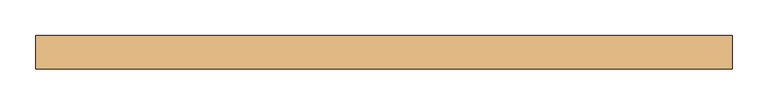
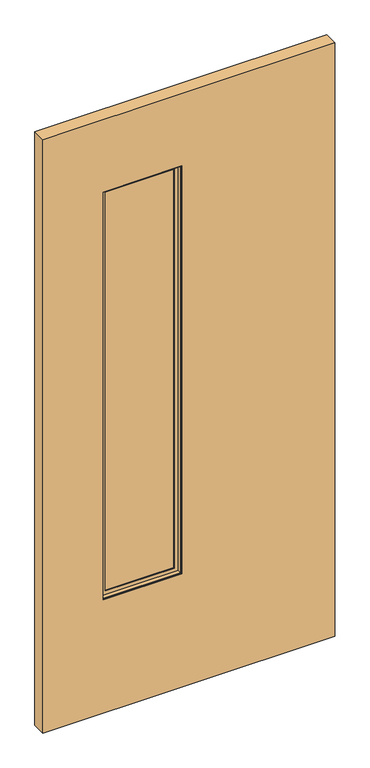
"""IFC4 building model written with IfcOpenShell, lengths in millimetres: door geometry, Solid_Hinged_Door_Glass_insert-AIH-Teknion-FHDB-Leaf_Single-R2022 : (A) Justified Half Glass insert."""

from ifc_helpers import new_model, si_unit, frame, origin, place, context, project, spatial, polyline, outline, extrude, faceted_brep, source, transform, mapped, element, save


def door_0cc8a4fb(model_context):
    return source(origin(), model_context, "Body", "SolidModel", [
        extrude(outline(polyline([(-23.0964326, -3.175), (-284.7164326, -3.175), (-284.7164326, 3.175), (-23.0964326, 3.175), (-23.0964326, -3.175)])), frame((0.0, 0.0, 409.9435027), z_axis=(0.0, 0.0, 1.0), x_axis=(1.0, 0.0, 0.0)), (0.0, 0.0, 1.0), 1430.02),
        faceted_brep([(-268.8258536, 3.797467, 1824.0729238), (-268.8258536, 3.797467, 425.8340817), (-268.8258536, 6.9755828, 425.8340817), (-268.8258536, 6.9755828, 1824.0729238), (-38.9870115, 3.797467, 425.8340817), (-38.9870115, 6.9755828, 425.8340817), (-26.2745484, 6.9755828, 413.1216185), (-281.5383168, 6.9755828, 413.1216185), (-281.5383168, 6.9755828, 1836.7853869), (-26.2745484, 6.9755828, 1836.7853869), (-38.9870115, 6.9755828, 1824.0729238), (-38.9870115, 3.797467, 1824.0729238), (-284.7164326, 3.797467, 409.9435027), (-23.0964326, 3.797467, 409.9435027), (-23.0964326, 3.797467, 1839.9635027), (-284.7164326, 3.797467, 1839.9635027), (-284.7164326, 19.688046, 1839.9635027), (-284.7164326, 19.688046, 409.9435027), (-23.0964326, 19.688046, 409.9435027), (-23.0964326, 19.688046, 1839.9635027), (-281.5383168, 19.688046, 413.1216185), (-26.2745484, 19.688046, 413.1216185), (-26.2745484, 19.688046, 1836.7853869), (-281.5383168, 19.688046, 1836.7853869)], [[[0, 1, 2, 3]], [[1, 4, 5, 2]], [[6, 7, 8, 9], [2, 5, 10, 3]], [[4, 11, 10, 5]], [[12, 13, 14, 15], [4, 1, 0, 11]], [[16, 17, 12, 15]], [[17, 18, 13, 12]], [[18, 19, 14, 13]], [[18, 17, 16, 19], [20, 21, 22, 23]], [[8, 7, 20, 23]], [[7, 6, 21, 20]], [[6, 9, 22, 21]], [[11, 0, 3, 10]], [[19, 16, 15, 14]], [[9, 8, 23, 22]]]),
        faceted_brep([(-281.5383168, -19.688046, 1836.7853869), (-281.5383168, -19.688046, 413.1216185), (-281.5383168, -6.9755828, 413.1216185), (-281.5383168, -6.9755828, 1836.7853869), (-26.2745484, -19.688046, 413.1216185), (-26.2745484, -6.9755828, 413.1216185), (-26.2745484, -6.9755828, 1836.7853869), (-38.9870115, -6.9755828, 425.8340817), (-268.8258536, -6.9755828, 425.8340817), (-268.8258536, -6.9755828, 1824.0729238), (-38.9870115, -6.9755828, 1824.0729238), (-26.2745484, -19.688046, 1836.7853869), (-284.7164326, -19.688046, 409.9435027), (-23.0964326, -19.688046, 409.9435027), (-23.0964326, -19.688046, 1839.9635027), (-284.7164326, -19.688046, 1839.9635027), (-284.7164326, -3.797467, 1839.9635027), (-284.7164326, -3.797467, 409.9435027), (-23.0964326, -3.797467, 409.9435027), (-23.0964326, -3.797467, 1839.9635027), (-268.8258536, -3.797467, 425.8340817), (-38.9870115, -3.797467, 425.8340817), (-38.9870115, -3.797467, 1824.0729238), (-268.8258536, -3.797467, 1824.0729238)], [[[0, 1, 2, 3]], [[1, 4, 5, 2]], [[2, 5, 6, 3], [7, 8, 9, 10]], [[4, 11, 6, 5]], [[12, 13, 14, 15], [4, 1, 0, 11]], [[16, 17, 12, 15]], [[17, 18, 13, 12]], [[18, 19, 14, 13]], [[18, 17, 16, 19], [20, 21, 22, 23]], [[9, 8, 20, 23]], [[8, 7, 21, 20]], [[7, 10, 22, 21]], [[11, 0, 3, 6]], [[19, 16, 15, 14]], [[10, 9, 23, 22]]]),
        extrude(outline(polyline([(2093.9635027, -484.1064326), (12.7, -484.1064326), (12.7, 484.1064326), (2093.9635027, 484.1064326), (2093.9635027, -484.1064326)]), holes=[polyline([(1839.9635027, -23.0964326), (409.9435027, -23.0964326), (409.9435027, -284.7164326), (1839.9635027, -284.7164326), (1839.9635027, -23.0964326)])]), frame((0.0, -23.114, 0.0), z_axis=(0.0, 1.0, 0.0), x_axis=(0.0, 0.0, 1.0)), (0.0, 0.0, 1.0), 46.228),
        extrude(outline(polyline([(458.7064326, 9.8925062), (-458.7064326, 9.8925062), (-458.7064326, 11.4927062), (458.7064326, 11.4927062), (458.7064326, 9.8925062)])), frame((0.0, 0.0, 12.7), z_axis=(0.0, 0.0, 1.0), x_axis=(1.0, 0.0, 0.0)), (0.0, 0.0, 1.0), 254.0),
        extrude(outline(polyline([(458.7064326, 21.5634094), (-458.7064326, 21.5634094), (-458.7064326, 23.114), (458.7064326, 23.114), (458.7064326, 21.5634094)])), frame((0.0, 0.0, 12.7), z_axis=(0.0, 0.0, 1.0), x_axis=(1.0, 0.0, 0.0)), (0.0, 0.0, 1.0), 254.0),
    ])


if __name__ == "__main__":
    model = new_model("IFC4")
    model_context = context("Model", 3, world=origin())
    ifc_project = project(units=[si_unit("LENGTHUNIT", "METRE", prefix="MILLI")], contexts=[model_context])
    site = spatial("IfcSite", under=ifc_project)
    building = spatial("IfcBuilding", under=site)
    placement = place(None, origin())
    door_shape = door_0cc8a4fb(model_context)
    element("IfcDoor", 1, ObjectType="Solid_Hinged_Door_Glass_insert-AIH-Teknion-FHDB-Leaf_Single-R2022 : (A) Justified Half Glass insert", at=placement, inside=building, context=model_context, shape_type="MappedRepresentation", body=[
        mapped(door_shape, transform((0.0, 0.0, 0.0), x_axis=(1.0, 0.0, 0.0), y_axis=(0.0, 1.0, 0.0), z_axis=(0.0, 0.0, 1.0))),
    ])
    save(model, "model.ifc")
